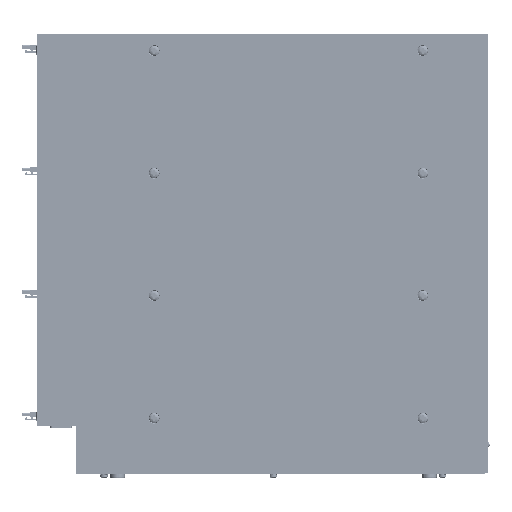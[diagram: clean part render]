
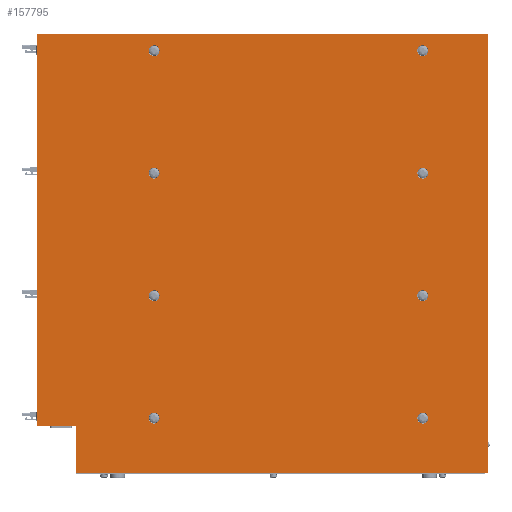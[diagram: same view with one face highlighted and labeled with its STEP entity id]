
A CAD part, left-side view. The second image highlights one B-rep face of the part: STEP entity #157795.
In plain terms, the highlighted planar face has unit normal (-1, 0, 0).
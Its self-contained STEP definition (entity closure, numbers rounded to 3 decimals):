
#8529=CIRCLE('',#168338,2.);
#8531=CIRCLE('',#168342,2.);
#8533=CIRCLE('',#168345,2.);
#8534=CIRCLE('',#168348,5.9);
#8537=CIRCLE('',#168353,5.9);
#8540=CIRCLE('',#168358,5.9);
#8543=CIRCLE('',#168363,5.9);
#8546=CIRCLE('',#168368,5.9);
#8549=CIRCLE('',#168373,5.9);
#8552=CIRCLE('',#168378,5.9);
#8555=CIRCLE('',#168383,5.9);
#8559=CIRCLE('',#168391,2.);
#39497=ORIENTED_EDGE('',*,*,#56959,.T.);
#39498=ORIENTED_EDGE('',*,*,#56956,.T.);
#39499=ORIENTED_EDGE('',*,*,#56953,.T.);
#39500=ORIENTED_EDGE('',*,*,#56950,.T.);
#39501=ORIENTED_EDGE('',*,*,#56947,.T.);
#39502=ORIENTED_EDGE('',*,*,#56944,.T.);
#39503=ORIENTED_EDGE('',*,*,#56941,.T.);
#39504=ORIENTED_EDGE('',*,*,#56938,.T.);
#39505=ORIENTED_EDGE('',*,*,#56936,.T.);
#39506=ORIENTED_EDGE('',*,*,#56933,.T.);
#39507=ORIENTED_EDGE('',*,*,#56965,.T.);
#39508=ORIENTED_EDGE('',*,*,#56967,.T.);
#39509=ORIENTED_EDGE('',*,*,#56968,.T.);
#39510=ORIENTED_EDGE('',*,*,#56929,.T.);
#39511=ORIENTED_EDGE('',*,*,#56925,.T.);
#39512=ORIENTED_EDGE('',*,*,#56923,.T.);
#39513=ORIENTED_EDGE('',*,*,#56919,.T.);
#39514=ORIENTED_EDGE('',*,*,#56915,.T.);
#56915=EDGE_CURVE('',#68270,#68271,#78264,.T.);
#56919=EDGE_CURVE('',#68272,#68270,#78268,.T.);
#56923=EDGE_CURVE('',#68275,#68272,#8529,.T.);
#56925=EDGE_CURVE('',#68276,#68275,#78272,.T.);
#56929=EDGE_CURVE('',#68279,#68276,#8531,.T.);
#56933=EDGE_CURVE('',#68283,#68282,#8533,.F.);
#56936=EDGE_CURVE('',#68271,#68283,#78279,.T.);
#56938=EDGE_CURVE('',#68284,#68284,#8534,.T.);
#56941=EDGE_CURVE('',#68287,#68287,#8537,.T.);
#56944=EDGE_CURVE('',#68290,#68290,#8540,.T.);
#56947=EDGE_CURVE('',#68293,#68293,#8543,.T.);
#56950=EDGE_CURVE('',#68296,#68296,#8546,.T.);
#56953=EDGE_CURVE('',#68299,#68299,#8549,.T.);
#56956=EDGE_CURVE('',#68302,#68302,#8552,.T.);
#56959=EDGE_CURVE('',#68305,#68305,#8555,.T.);
#56965=EDGE_CURVE('',#68282,#68308,#78283,.T.);
#56967=EDGE_CURVE('',#68308,#68309,#8559,.T.);
#56968=EDGE_CURVE('',#68309,#68279,#78285,.T.);
#68270=VERTEX_POINT('',#238445);
#68271=VERTEX_POINT('',#238446);
#68272=VERTEX_POINT('',#238452);
#68275=VERTEX_POINT('',#238460);
#68276=VERTEX_POINT('',#238464);
#68279=VERTEX_POINT('',#238472);
#68282=VERTEX_POINT('',#238479);
#68283=VERTEX_POINT('',#238481);
#68284=VERTEX_POINT('',#238489);
#68287=VERTEX_POINT('',#238497);
#68290=VERTEX_POINT('',#238505);
#68293=VERTEX_POINT('',#238513);
#68296=VERTEX_POINT('',#238521);
#68299=VERTEX_POINT('',#238529);
#68302=VERTEX_POINT('',#238537);
#68305=VERTEX_POINT('',#238545);
#68308=VERTEX_POINT('',#238557);
#68309=VERTEX_POINT('',#238561);
#78264=LINE('',#238444,#87616);
#78268=LINE('',#238451,#87620);
#78272=LINE('',#238463,#87624);
#78279=LINE('',#238485,#87631);
#78283=LINE('',#238556,#87635);
#78285=LINE('',#238562,#87637);
#87616=VECTOR('',#197988,1000.);
#87620=VECTOR('',#197994,1000.);
#87624=VECTOR('',#198006,1000.);
#87631=VECTOR('',#198027,1000.);
#87635=VECTOR('',#198117,1000.);
#87637=VECTOR('',#198123,1000.);
#94820=EDGE_LOOP('',(#39497));
#94821=EDGE_LOOP('',(#39498));
#94822=EDGE_LOOP('',(#39499));
#94823=EDGE_LOOP('',(#39500));
#94824=EDGE_LOOP('',(#39501));
#94825=EDGE_LOOP('',(#39502));
#94826=EDGE_LOOP('',(#39503));
#94827=EDGE_LOOP('',(#39504));
#94828=EDGE_LOOP('',(#39505,#39506,#39507,#39508,#39509,#39510,#39511,#39512,
#39513,#39514));
#102986=FACE_BOUND('',#94820,.T.);
#102987=FACE_BOUND('',#94821,.T.);
#102988=FACE_BOUND('',#94822,.T.);
#102989=FACE_BOUND('',#94823,.T.);
#102990=FACE_BOUND('',#94824,.T.);
#102991=FACE_BOUND('',#94825,.T.);
#102992=FACE_BOUND('',#94826,.T.);
#102993=FACE_BOUND('',#94827,.T.);
#102994=FACE_BOUND('',#94828,.T.);
#108126=PLANE('',#168390);
#157795=ADVANCED_FACE('',(#102986,#102987,#102988,#102989,#102990,#102991,
#102992,#102993,#102994),#108126,.T.);
#168338=AXIS2_PLACEMENT_3D('',#238459,#198001,#198002);
#168342=AXIS2_PLACEMENT_3D('',#238471,#198013,#198014);
#168345=AXIS2_PLACEMENT_3D('',#238480,#198021,#198022);
#168348=AXIS2_PLACEMENT_3D('',#238488,#198031,#198032);
#168353=AXIS2_PLACEMENT_3D('',#238496,#198041,#198042);
#168358=AXIS2_PLACEMENT_3D('',#238504,#198051,#198052);
#168363=AXIS2_PLACEMENT_3D('',#238512,#198061,#198062);
#168368=AXIS2_PLACEMENT_3D('',#238520,#198071,#198072);
#168373=AXIS2_PLACEMENT_3D('',#238528,#198081,#198082);
#168378=AXIS2_PLACEMENT_3D('',#238536,#198091,#198092);
#168383=AXIS2_PLACEMENT_3D('',#238544,#198101,#198102);
#168390=AXIS2_PLACEMENT_3D('',#238559,#198119,#198120);
#168391=AXIS2_PLACEMENT_3D('',#238560,#198121,#198122);
#197988=DIRECTION('',(0.,0.,-1.));
#197994=DIRECTION('',(0.,1.,0.));
#198001=DIRECTION('',(-1.,0.,0.));
#198002=DIRECTION('',(0.,0.,-1.));
#198006=DIRECTION('',(0.,0.,1.));
#198013=DIRECTION('',(-1.,0.,0.));
#198014=DIRECTION('',(0.,0.,-1.));
#198021=DIRECTION('',(-1.,0.,0.));
#198022=DIRECTION('',(0.,0.,-1.));
#198027=DIRECTION('',(0.,-1.,0.));
#198031=DIRECTION('',(1.,0.,0.));
#198032=DIRECTION('',(0.,0.,1.));
#198041=DIRECTION('',(1.,0.,0.));
#198042=DIRECTION('',(0.,0.,1.));
#198051=DIRECTION('',(1.,0.,0.));
#198052=DIRECTION('',(0.,0.,1.));
#198061=DIRECTION('',(1.,0.,0.));
#198062=DIRECTION('',(0.,0.,1.));
#198071=DIRECTION('',(1.,0.,0.));
#198072=DIRECTION('',(0.,0.,1.));
#198081=DIRECTION('',(1.,0.,0.));
#198082=DIRECTION('',(0.,0.,1.));
#198091=DIRECTION('',(1.,0.,0.));
#198092=DIRECTION('',(0.,0.,1.));
#198101=DIRECTION('',(1.,0.,0.));
#198102=DIRECTION('',(0.,0.,1.));
#198117=DIRECTION('',(0.,0.,-1.));
#198119=DIRECTION('',(-1.,0.,0.));
#198120=DIRECTION('',(0.,0.,-1.));
#198121=DIRECTION('',(-1.,0.,0.));
#198122=DIRECTION('',(0.,0.,-1.));
#198123=DIRECTION('',(0.,-1.,0.));
#238444=CARTESIAN_POINT('',(-123.,490.,478.));
#238445=CARTESIAN_POINT('',(-123.,490.,478.));
#238446=CARTESIAN_POINT('',(-123.,490.,52.));
#238451=CARTESIAN_POINT('',(-123.,0.,478.));
#238452=CARTESIAN_POINT('',(-123.,2.,478.));
#238459=CARTESIAN_POINT('',(-123.,2.,476.));
#238460=CARTESIAN_POINT('',(-123.,0.,476.));
#238463=CARTESIAN_POINT('',(-123.,0.,0.));
#238464=CARTESIAN_POINT('',(-123.,0.,2.));
#238471=CARTESIAN_POINT('',(-123.,2.,2.));
#238472=CARTESIAN_POINT('',(-123.,2.,0.));
#238479=CARTESIAN_POINT('',(-123.,448.,50.));
#238480=CARTESIAN_POINT('',(-123.,450.,50.));
#238481=CARTESIAN_POINT('',(-123.,450.,52.));
#238485=CARTESIAN_POINT('',(-123.,490.,52.));
#238488=CARTESIAN_POINT('',(-123.,363.,459.5));
#238489=CARTESIAN_POINT('',(-123.,363.,465.4));
#238496=CARTESIAN_POINT('',(-123.,71.,459.5));
#238497=CARTESIAN_POINT('',(-123.,71.,465.4));
#238504=CARTESIAN_POINT('',(-123.,71.,326.367));
#238505=CARTESIAN_POINT('',(-123.,71.,332.267));
#238512=CARTESIAN_POINT('',(-123.,363.,326.367));
#238513=CARTESIAN_POINT('',(-123.,363.,332.267));
#238520=CARTESIAN_POINT('',(-123.,363.,193.233));
#238521=CARTESIAN_POINT('',(-123.,363.,199.133));
#238528=CARTESIAN_POINT('',(-123.,71.,193.233));
#238529=CARTESIAN_POINT('',(-123.,71.,199.133));
#238536=CARTESIAN_POINT('',(-123.,71.,60.1));
#238537=CARTESIAN_POINT('',(-123.,71.,66.));
#238544=CARTESIAN_POINT('',(-123.,363.,60.1));
#238545=CARTESIAN_POINT('',(-123.,363.,66.));
#238556=CARTESIAN_POINT('',(-123.,448.,52.));
#238557=CARTESIAN_POINT('',(-123.,448.,2.));
#238559=CARTESIAN_POINT('',(-123.,0.,0.));
#238560=CARTESIAN_POINT('',(-123.,446.,2.));
#238561=CARTESIAN_POINT('',(-123.,446.,0.));
#238562=CARTESIAN_POINT('',(-123.,448.,0.));
